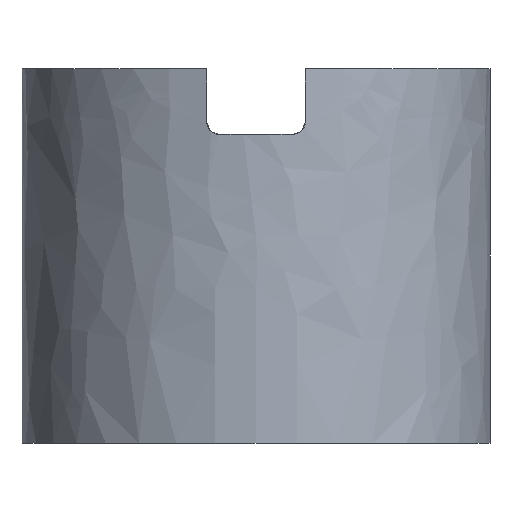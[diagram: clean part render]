
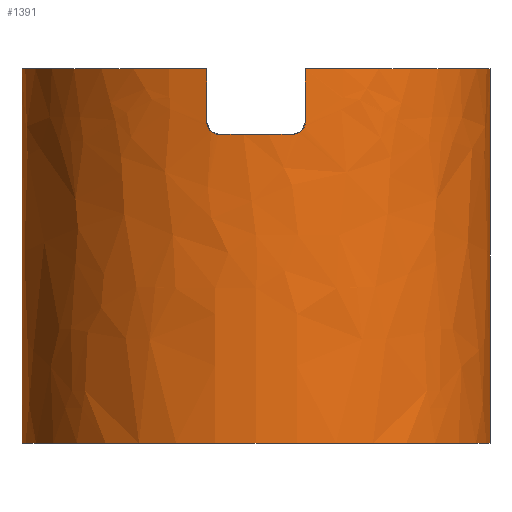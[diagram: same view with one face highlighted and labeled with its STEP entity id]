
A CAD part, left-side view. The second image highlights one B-rep face of the part: STEP entity #1391.
In plain terms, the highlighted free-form (B-spline) face has degree [8, 1] with [9, 2] control points.
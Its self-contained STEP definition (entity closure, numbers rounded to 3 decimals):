
#30=CARTESIAN_POINT('',(0.,0.,32.));
#31=DIRECTION('',(0.,0.,-1.));
#32=DIRECTION('',(0.,-1.,0.));
#33=AXIS2_PLACEMENT_3D('',#30,#31,#32);
#61=CARTESIAN_POINT('',(0.,0.,32.));
#62=DIRECTION('',(0.,0.,-1.));
#63=DIRECTION('',(-0.978,0.21,0.));
#64=AXIS2_PLACEMENT_3D('',#61,#62,#63);
#420=DIRECTION('',(0.,0.,-1.));
#421=VECTOR('',#420,32.);
#422=CARTESIAN_POINT('',(0.,20.,32.));
#423=LINE('',#422,#421);
#429=DIRECTION('',(0.,0.,-1.));
#430=VECTOR('',#429,32.);
#431=CARTESIAN_POINT('',(0.,-20.,32.));
#432=LINE('',#431,#430);
#441=DIRECTION('',(0.,0.,1.));
#442=VECTOR('',#441,4.6);
#443=CARTESIAN_POINT('',(-19.554,-4.2,27.4));
#444=LINE('',#443,#442);
#445=CARTESIAN_POINT('',(0.,0.,0.));
#446=DIRECTION('',(0.,0.,-1.));
#447=DIRECTION('',(0.,-1.,0.));
#448=AXIS2_PLACEMENT_3D('',#445,#446,#447);
#450=DIRECTION('',(0.,0.,1.));
#451=VECTOR('',#450,4.6);
#452=CARTESIAN_POINT('',(-19.554,4.2,27.4));
#453=LINE('',#452,#451);
#454=CARTESIAN_POINT('',(-19.742,3.2,26.4));
#455=CARTESIAN_POINT('',(-19.738,3.228,26.4));
#456=CARTESIAN_POINT('',(-19.729,3.283,26.402));
#457=CARTESIAN_POINT('',(-19.715,3.366,26.413));
#458=CARTESIAN_POINT('',(-19.701,3.448,26.43));
#459=CARTESIAN_POINT('',(-19.686,3.528,26.454));
#460=CARTESIAN_POINT('',(-19.672,3.605,26.485));
#461=CARTESIAN_POINT('',(-19.659,3.68,26.522));
#462=CARTESIAN_POINT('',(-19.645,3.752,26.565));
#463=CARTESIAN_POINT('',(-19.632,3.819,26.613));
#464=CARTESIAN_POINT('',(-19.62,3.882,26.667));
#465=CARTESIAN_POINT('',(-19.608,3.941,26.726));
#466=CARTESIAN_POINT('',(-19.597,3.994,26.79));
#467=CARTESIAN_POINT('',(-19.588,4.041,26.857));
#468=CARTESIAN_POINT('',(-19.579,4.083,26.928));
#469=CARTESIAN_POINT('',(-19.571,4.119,27.002));
#470=CARTESIAN_POINT('',(-19.565,4.148,27.079));
#471=CARTESIAN_POINT('',(-19.56,4.171,27.157));
#472=CARTESIAN_POINT('',(-19.557,4.188,27.237));
#473=CARTESIAN_POINT('',(-19.555,4.198,27.319));
#474=CARTESIAN_POINT('',(-19.554,4.2,27.373));
#475=CARTESIAN_POINT('',(-19.554,4.2,27.4));
#477=CARTESIAN_POINT('',(0.,0.,26.4));
#478=DIRECTION('',(0.,0.,1.));
#479=DIRECTION('',(-0.987,0.16,0.));
#480=AXIS2_PLACEMENT_3D('',#477,#478,#479);
#482=CARTESIAN_POINT('',(-19.554,-4.2,27.4));
#483=CARTESIAN_POINT('',(-19.554,-4.2,27.373));
#484=CARTESIAN_POINT('',(-19.555,-4.198,27.319));
#485=CARTESIAN_POINT('',(-19.557,-4.188,27.237));
#486=CARTESIAN_POINT('',(-19.56,-4.171,27.157));
#487=CARTESIAN_POINT('',(-19.565,-4.148,27.079));
#488=CARTESIAN_POINT('',(-19.571,-4.119,27.002));
#489=CARTESIAN_POINT('',(-19.579,-4.083,26.928));
#490=CARTESIAN_POINT('',(-19.588,-4.041,26.857));
#491=CARTESIAN_POINT('',(-19.597,-3.994,26.79));
#492=CARTESIAN_POINT('',(-19.608,-3.941,26.726));
#493=CARTESIAN_POINT('',(-19.62,-3.882,26.667));
#494=CARTESIAN_POINT('',(-19.632,-3.819,26.613));
#495=CARTESIAN_POINT('',(-19.645,-3.752,26.565));
#496=CARTESIAN_POINT('',(-19.659,-3.68,26.522));
#497=CARTESIAN_POINT('',(-19.672,-3.605,26.485));
#498=CARTESIAN_POINT('',(-19.686,-3.528,26.454));
#499=CARTESIAN_POINT('',(-19.701,-3.448,26.43));
#500=CARTESIAN_POINT('',(-19.715,-3.366,26.413));
#501=CARTESIAN_POINT('',(-19.729,-3.283,26.402));
#502=CARTESIAN_POINT('',(-19.738,-3.228,26.4));
#503=CARTESIAN_POINT('',(-19.742,-3.2,26.4));
#559=CARTESIAN_POINT('',(0.,20.,32.));
#560=CARTESIAN_POINT('',(0.,20.,0.));
#561=VERTEX_POINT('',#559);
#562=VERTEX_POINT('',#560);
#569=CARTESIAN_POINT('',(0.,-20.,32.));
#570=CARTESIAN_POINT('',(0.,-20.,0.));
#571=VERTEX_POINT('',#569);
#572=VERTEX_POINT('',#570);
#586=CARTESIAN_POINT('',(-19.554,-4.2,27.4));
#587=CARTESIAN_POINT('',(-19.554,-4.2,32.));
#588=VERTEX_POINT('',#586);
#589=VERTEX_POINT('',#587);
#590=VERTEX_POINT('',#503);
#591=CARTESIAN_POINT('',(-19.742,3.2,26.4));
#592=VERTEX_POINT('',#591);
#593=VERTEX_POINT('',#475);
#594=CARTESIAN_POINT('',(-19.554,4.2,32.));
#595=VERTEX_POINT('',#594);
#1357=CARTESIAN_POINT('',(1.256,19.961,-0.64));
#1358=CARTESIAN_POINT('',(1.256,19.961,32.64));
#1359=CARTESIAN_POINT('',(-6.896,20.473,-0.64));
#1360=CARTESIAN_POINT('',(-6.896,20.473,32.64));
#1361=CARTESIAN_POINT('',(-15.288,17.181,-0.64));
#1362=CARTESIAN_POINT('',(-15.288,17.181,32.64));
#1363=CARTESIAN_POINT('',(-21.846,9.96,-0.64));
#1364=CARTESIAN_POINT('',(-21.846,9.96,32.64));
#1365=CARTESIAN_POINT('',(-24.419,-0.003,-0.64));
#1366=CARTESIAN_POINT('',(-24.419,-0.003,32.64));
#1367=CARTESIAN_POINT('',(-21.846,-9.957,-0.64));
#1368=CARTESIAN_POINT('',(-21.846,-9.957,32.64));
#1369=CARTESIAN_POINT('',(-15.288,-17.181,-0.64));
#1370=CARTESIAN_POINT('',(-15.288,-17.181,32.64));
#1371=CARTESIAN_POINT('',(-6.896,-20.473,-0.64));
#1372=CARTESIAN_POINT('',(-6.896,-20.473,32.64));
#1373=CARTESIAN_POINT('',(1.256,-19.961,-0.64));
#1374=CARTESIAN_POINT('',(1.256,-19.961,32.64));
#1375=B_SPLINE_SURFACE_WITH_KNOTS('',8,1,((#1357,#1358),(#1359,#1360),(#1361,
#1362),(#1363,#1364),(#1365,#1366),(#1367,#1368),(#1369,#1370),(#1371,#1372),(
#1373,#1374)),.UNSPECIFIED.,.F.,.F.,.F.,(9,9),(2,2),(-0.063,
3.204),(-0.64,32.64),.UNSPECIFIED.);
#1376=ORIENTED_EDGE('',*,*,#735,.T.);
#1377=ORIENTED_EDGE('',*,*,#653,.F.);
#1378=ORIENTED_EDGE('',*,*,#1287,.T.);
#1379=ORIENTED_EDGE('',*,*,#1239,.T.);
#1380=ORIENTED_EDGE('',*,*,#1284,.F.);
#1381=ORIENTED_EDGE('',*,*,#688,.F.);
#1383=ORIENTED_EDGE('',*,*,#1382,.F.);
#1385=ORIENTED_EDGE('',*,*,#1384,.F.);
#1387=ORIENTED_EDGE('',*,*,#1386,.T.);
#1388=ORIENTED_EDGE('',*,*,#1315,.F.);
#1389=EDGE_LOOP('',(#1376,#1377,#1378,#1379,#1380,#1381,#1383,#1385,#1387,
#1388));
#1390=FACE_OUTER_BOUND('',#1389,.F.);
#34=CIRCLE('',#33,20.);
#65=CIRCLE('',#64,20.);
#449=CIRCLE('',#448,20.);
#476=B_SPLINE_CURVE_WITH_KNOTS('',3,(#454,#455,#456,#457,#458,#459,#460,#461,
#462,#463,#464,#465,#466,#467,#468,#469,#470,#471,#472,#473,#474,#475),
.UNSPECIFIED.,.F.,.F.,(4,1,1,1,1,1,1,1,1,1,1,1,1,1,1,1,1,1,1,4),(0.,
0.053,0.105,0.158,0.211,
0.263,0.316,0.368,0.421,
0.474,0.526,0.579,0.632,
0.684,0.737,0.789,0.842,
0.895,0.947,1.),.UNSPECIFIED.);
#481=CIRCLE('',#480,20.);
#504=B_SPLINE_CURVE_WITH_KNOTS('',3,(#482,#483,#484,#485,#486,#487,#488,#489,
#490,#491,#492,#493,#494,#495,#496,#497,#498,#499,#500,#501,#502,#503),
.UNSPECIFIED.,.F.,.F.,(4,1,1,1,1,1,1,1,1,1,1,1,1,1,1,1,1,1,1,4),(0.,
0.053,0.105,0.158,0.211,
0.263,0.316,0.368,0.421,
0.474,0.526,0.579,0.632,
0.684,0.737,0.789,0.842,
0.895,0.947,1.),.UNSPECIFIED.);
#653=EDGE_CURVE('',#571,#589,#34,.T.);
#688=EDGE_CURVE('',#595,#561,#65,.T.);
#735=EDGE_CURVE('',#588,#589,#444,.T.);
#1239=EDGE_CURVE('',#572,#562,#449,.T.);
#1284=EDGE_CURVE('',#561,#562,#423,.T.);
#1287=EDGE_CURVE('',#571,#572,#432,.T.);
#1315=EDGE_CURVE('',#588,#590,#504,.T.);
#1382=EDGE_CURVE('',#593,#595,#453,.T.);
#1384=EDGE_CURVE('',#592,#593,#476,.T.);
#1386=EDGE_CURVE('',#592,#590,#481,.T.);
#1391=ADVANCED_FACE('',(#1390),#1375,.T.);
